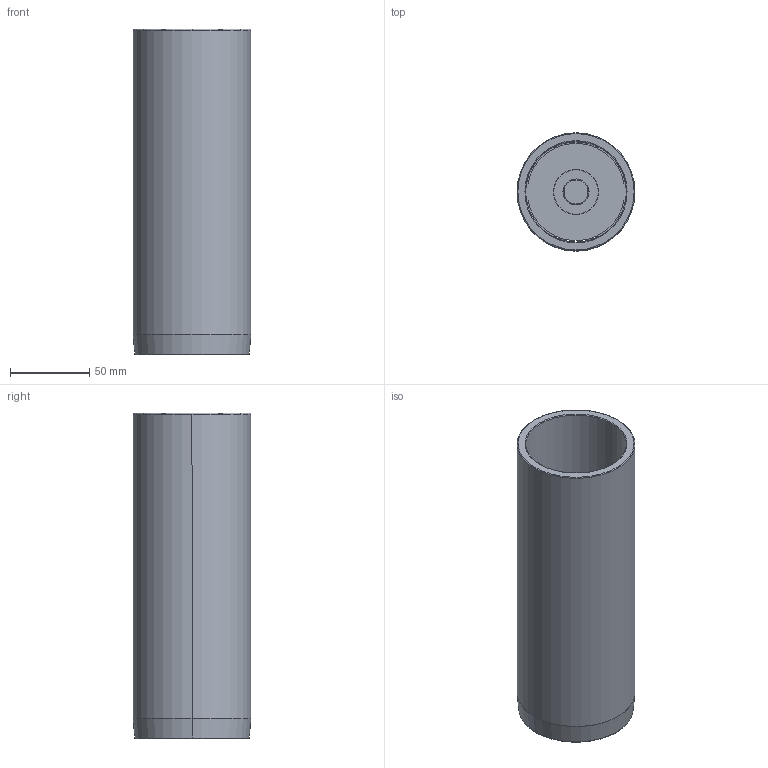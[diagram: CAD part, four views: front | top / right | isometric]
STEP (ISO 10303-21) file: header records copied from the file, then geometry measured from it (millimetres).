
FILE_DESCRIPTION((''),'2;1');
FILE_NAME('C12_063_205.stp','2009-01-29T09:35:27',(''),(''),'Mechanical Desktop 2009','Mechanical Desktop 2009',', , ');
FILE_SCHEMA(('CONFIG_CONTROL_DESIGN'));
Length unit declared in the file: millimetre
Products named in the file (2): Product; blmdl1
Assembly tree (1 placements, depth 2):
  Product
    blmdl1
Bounding box: 74.25 x 74.25 x 205 mm (x, y, z)
Volume: 253659.7 mm3; surface area: 105268.5 mm2
Topology: 5 solids, 5 shells, 79 faces, 200 edges, 134 vertices
Faces by surface type: cylinder 34, plane 29, torus 10, cone 6
Entity records: 2585 total; most frequent: DIRECTION 480, CARTESIAN_POINT 435, ORIENTED_EDGE 400, AXIS2_PLACEMENT_3D 203, EDGE_CURVE 200, VERTEX_POINT 134, CIRCLE 122, EDGE_LOOP 92
